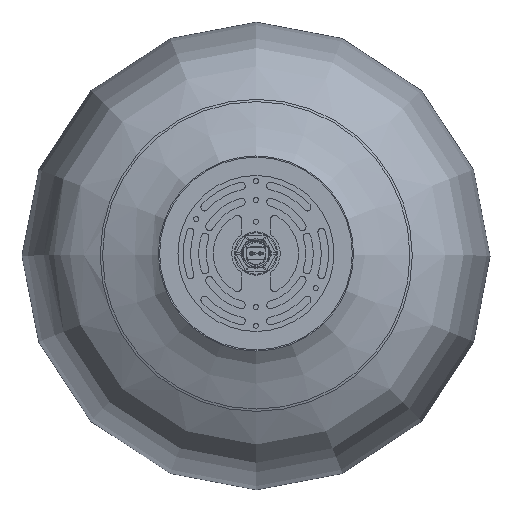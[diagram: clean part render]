
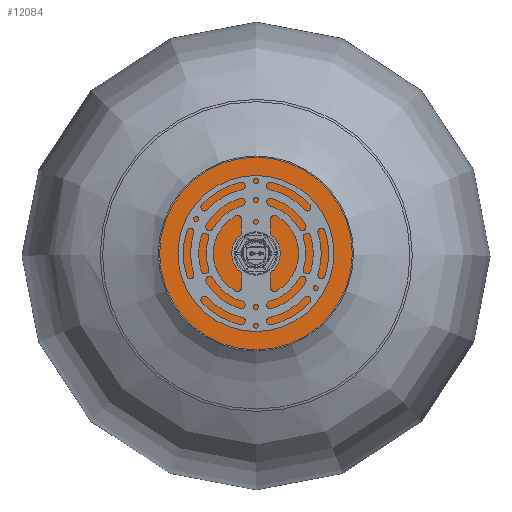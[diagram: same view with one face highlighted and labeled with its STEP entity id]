
A CAD part, top view. The second image highlights one B-rep face of the part: STEP entity #12084.
In plain terms, the highlighted planar face has unit normal (0, 0, 1).
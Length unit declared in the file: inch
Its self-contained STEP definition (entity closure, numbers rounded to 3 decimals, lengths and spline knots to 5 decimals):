
#180=FACE_BOUND('',#2422,.T.);
#690=CIRCLE('',#13003,0.45);
#692=CIRCLE('',#13006,2.47);
#1640=FACE_OUTER_BOUND('',#2421,.T.);
#2421=EDGE_LOOP('',(#9748));
#2422=EDGE_LOOP('',(#9749));
#5507=VERTEX_POINT('',#21523);
#5509=VERTEX_POINT('',#21529);
#7001=EDGE_CURVE('',#5507,#5507,#690,.T.);
#7004=EDGE_CURVE('',#5509,#5509,#692,.F.);
#9748=ORIENTED_EDGE('',*,*,#7004,.T.);
#9749=ORIENTED_EDGE('',*,*,#7001,.T.);
#11571=PLANE('',#13008);
#12084=ADVANCED_FACE('',(#1640,#180),#11571,.T.);
#13003=AXIS2_PLACEMENT_3D('',#21524,#15355,#15356);
#13006=AXIS2_PLACEMENT_3D('',#21530,#15362,#15363);
#13008=AXIS2_PLACEMENT_3D('',#21534,#15367,#15368);
#15355=DIRECTION('center_axis',(0.,0.,-1.));
#15356=DIRECTION('ref_axis',(1.,0.,0.));
#15362=DIRECTION('center_axis',(0.,0.,-1.));
#15363=DIRECTION('ref_axis',(1.,0.,0.));
#15367=DIRECTION('center_axis',(0.,0.,1.));
#15368=DIRECTION('ref_axis',(1.,0.,0.));
#21523=CARTESIAN_POINT('',(-0.45,0.,44.99));
#21524=CARTESIAN_POINT('Origin',(0.,0.,44.99));
#21529=CARTESIAN_POINT('',(-2.47,0.,44.99));
#21530=CARTESIAN_POINT('Origin',(0.,0.,44.99));
#21534=CARTESIAN_POINT('Origin',(0.,0.,44.99));
